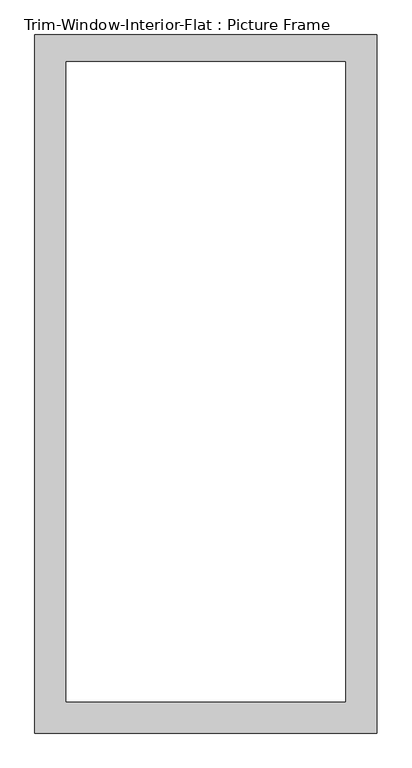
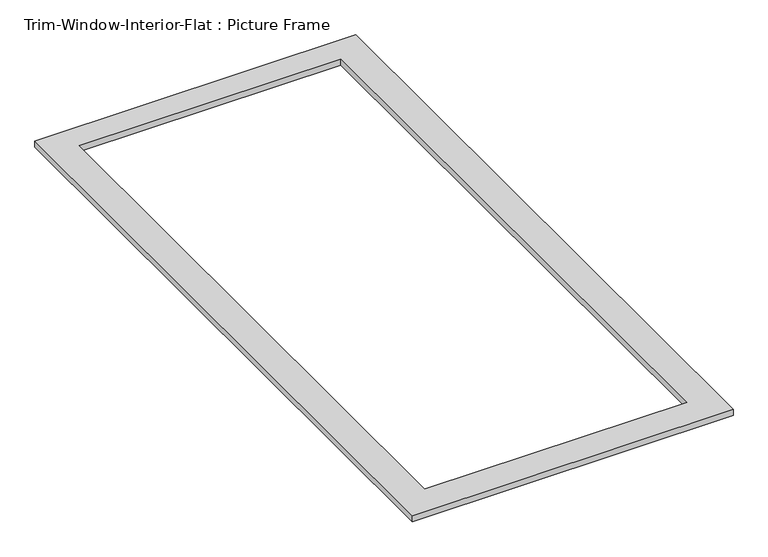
"""IFC4 building model written with IfcOpenShell, lengths in millimetres: proxy geometry, Trim-Window-Interior-Flat : Picture Frame."""

from ifc_helpers import new_model, si_unit, origin, origin_with_axes, place, context, project, spatial, polyline, outline, extrude, source, transform, mapped, element, save


def trim_window_interior_flat_picture_frame_43c14297(model_context):
    return source(origin(), model_context, "Body", "SweptSolid", [
        extrude(outline(polyline([(482.6, 63.5), (482.6, -1905.0), (-482.6, -1905.0), (-482.6, 63.5), (482.6, 63.5)]), holes=[polyline([(393.7, -12.7), (-393.7, -12.7), (-393.7, -1816.1), (393.7, -1816.1), (393.7, -12.7)])]), origin_with_axes(), (0.0, 0.0, 1.0), 19.05),
    ])


if __name__ == "__main__":
    model = new_model("IFC4")
    model_context = context("Model", 3, world=origin())
    ifc_project = project(units=[si_unit("LENGTHUNIT", "METRE", prefix="MILLI")], contexts=[model_context])
    site = spatial("IfcSite", under=ifc_project)
    building = spatial("IfcBuilding", under=site)
    placement = place(None, origin())
    trim_window_interior_flat_picture_frame_shape = trim_window_interior_flat_picture_frame_43c14297(model_context)
    element("IfcBuildingElementProxy", 1, Name="Trim-Window-Interior-Flat : Picture Frame", ObjectType="Trim-Window-Interior-Flat : Picture Frame", at=placement, inside=building, context=model_context, shape_type="MappedRepresentation", body=[
        mapped(trim_window_interior_flat_picture_frame_shape, transform((0.0, 0.0, 0.0), x_axis=(1.0, 0.0, 0.0), y_axis=(0.0, 1.0, 0.0), z_axis=(0.0, 0.0, 1.0))),
    ])
    save(model, "model.ifc")
